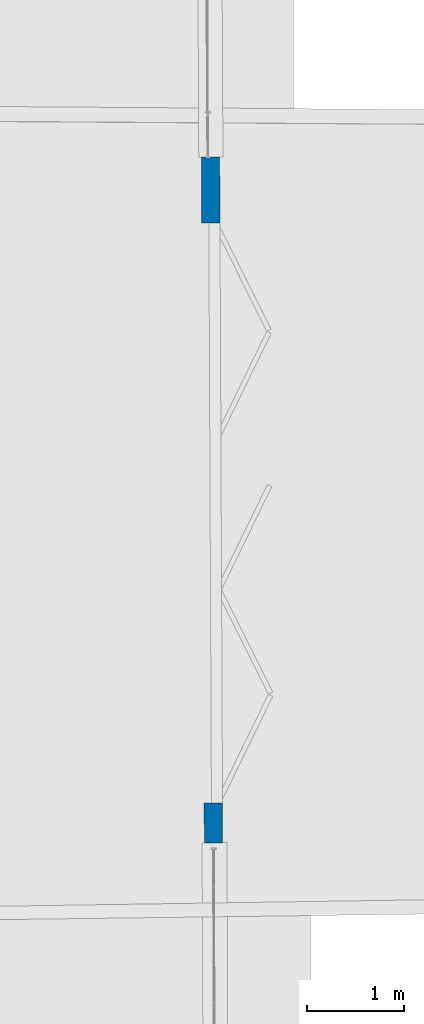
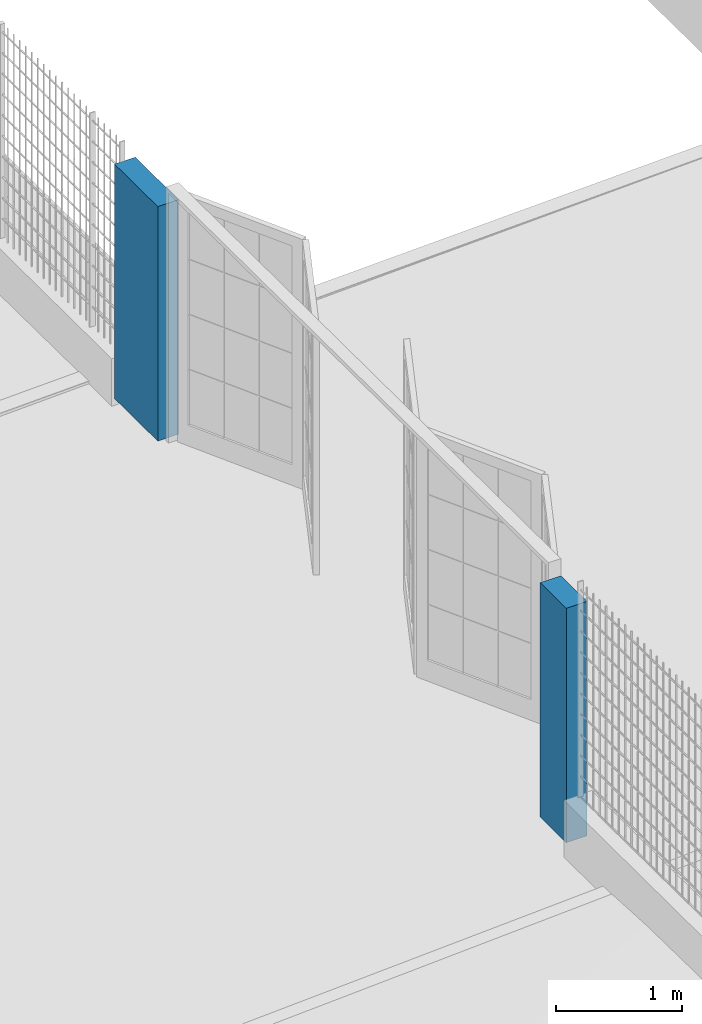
# One storey, part 1 of 1809: 1 wall, 1 opening.
"""IFC2X3 building model written with IfcOpenShell, lengths in millimetres."""

from ifc_helpers import new_model, entity, si_unit, converted_unit, derived_unit, money_unit, direction, frame, origin_with_axes, origin_2d_with_axis, place, context, subcontext, project, spatial, polyline, rectangle, outline, extrude, material, layer, layer_set, layer_usage, type_object, element, save


model = new_model("IFC2X3")

# Units and contexts
model_context = context("Model", 3, precision=0.01, world=origin_with_axes(), true_north=direction((0.0, 1.0)))
body_context = subcontext(model_context, "Body", "Model", "MODEL_VIEW")
ifc_project = project(units=[si_unit("LENGTHUNIT", "METRE", prefix="MILLI"), si_unit("AREAUNIT", "SQUARE_METRE"), si_unit("VOLUMEUNIT", "CUBIC_METRE"), converted_unit("PLANEANGLEUNIT", "DEGREE", entity("IfcPlaneAngleMeasure", 0.0174532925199), si_unit("PLANEANGLEUNIT", "RADIAN"), dimensions=[0, 0, 0, 0, 0, 0, 0]), si_unit("SOLIDANGLEUNIT", "STERADIAN"), money_unit("EUR"), converted_unit("TIMEUNIT", "Year", entity("IfcTimeMeasure", 31556926.0), si_unit("TIMEUNIT", "SECOND"), dimensions=[0, 0, 1, 0, 0, 0, 0]), si_unit("MASSUNIT", "GRAM", prefix="KILO"), si_unit("THERMODYNAMICTEMPERATUREUNIT", "DEGREE_CELSIUS"), si_unit("LUMINOUSINTENSITYUNIT", "LUMEN"), si_unit("ENERGYUNIT", "JOULE", prefix="MEGA"), derived_unit("THERMALCONDUCTANCEUNIT", [(si_unit("POWERUNIT", "WATT"), 1), (si_unit("LENGTHUNIT", "METRE"), -1), (si_unit("THERMODYNAMICTEMPERATUREUNIT", "KELVIN"), -1)]), derived_unit("SPECIFICHEATCAPACITYUNIT", [(si_unit("ENERGYUNIT", "JOULE"), 1), (si_unit("MASSUNIT", "GRAM", prefix="KILO"), -1), (si_unit("THERMODYNAMICTEMPERATUREUNIT", "KELVIN"), -1)]), derived_unit("MASSDENSITYUNIT", [(si_unit("MASSUNIT", "GRAM", prefix="KILO"), 1), (si_unit("VOLUMEUNIT", "CUBIC_METRE"), -1)])], contexts=[model_context])

# Site, building, storey
site_placement = place(None, origin_with_axes())
site = spatial("IfcSite", under=ifc_project, at=site_placement, Name="Politse- ja Piirivalveameti ning Päästeameti ühishoone", CompositionType="ELEMENT")
building_placement = place(site_placement, origin_with_axes())
building = spatial("IfcBuilding", under=site, at=building_placement, Name="Politse- ja Piirivalveameti ning Päästeameti ühishoone", CompositionType="ELEMENT")
storey_placement = place(building_placement, origin_with_axes())
storey = spatial("IfcBuildingStorey", under=building, at=storey_placement, Name="Esimene korrus", CompositionType="ELEMENT", Elevation=0.0)

# Wall, opening
ifc_material = material(Name="KON-00_GENEERILINE - KONSTRUKTSIOON")
ifc_layer = layer(ifc_material, 190.0, ventilated="UNKNOWN")
ifc_layer_set = layer_set([ifc_layer], Name="KON-00_GENEERILINE - KONSTRUKTSIOON 190")
ifc_layer_usage = layer_usage(ifc_layer_set, "AXIS2", "POSITIVE", -95.0)
wall_type = type_object("IfcWallType", Name="KON-00_GENEERILINE - KONSTRUKTSIOON 190", PredefinedType="NOTDEFINED")
wall_placement = place(storey_placement, frame((89319.3385112, -22126.5778425, -216.525248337), z_axis=(0.0, 0.0, 1.0), x_axis=(0.00442999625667, -0.999990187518, 0.0)))
wall = element("IfcWallStandardCase", 1, at=wall_placement, inside=storey, type_object=wall_type, material=ifc_layer_usage, Name="Välissein", context=body_context, shape_type="SweptSolid", body=[
    extrude(outline(polyline([(0.0, -95.0), (7089.76436247, -95.0), (7089.76436247, 95.0), (0.0, 95.0), (0.0, -95.0)])), origin_with_axes(), (0.0, 0.0, 1.0), 2263.36728547),
])
opening_placement = place(wall_placement, frame((3679.95754308, 0.0, -20.7884371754), z_axis=(0.0, 0.0, 1.0), x_axis=(1.0, 0.0, 0.0)))
element("IfcOpeningElement", 2, at=opening_placement, cuts=wall, Name="VOLDIKV2RAV", context=body_context, shape_type="SweptSolid", body=[
    extrude(rectangle(XDim=6000.0, YDim=2450.0, at=origin_2d_with_axis()), frame((0.0, -190.0, 1225.0), z_axis=(0.0, 1.0, 0.0), x_axis=(1.0, 0.0, 0.0)), (0.0, 0.0, 1.0), 570.0),
])

save(model, "model.ifc")
